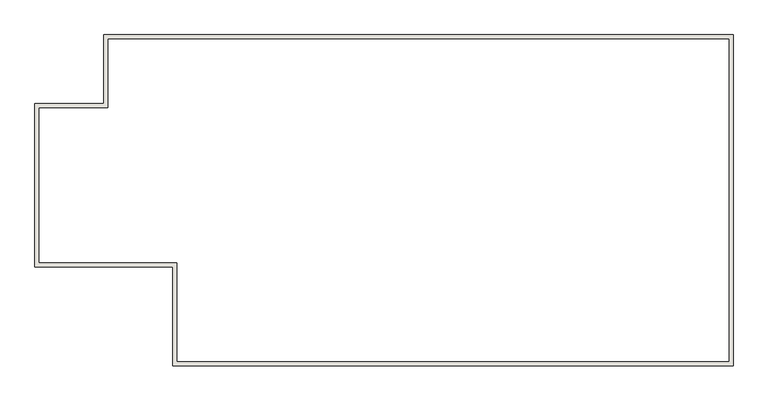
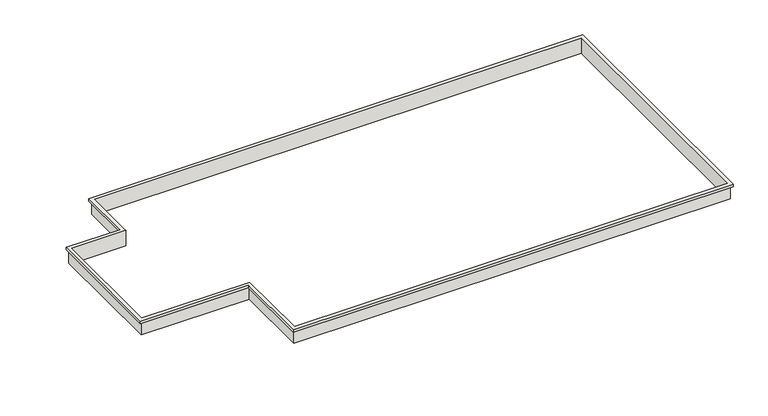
"""IFC4 building model written with IfcOpenShell, lengths in millimetres: wall geometry, 墙 4 : 墙 4."""

from ifc_helpers import new_model, si_unit, origin, place, context, project, spatial, faceted_brep, source, transform, mapped, element, save


def wall_ed209919(model_context):
    return source(origin(), model_context, "Body", "Brep", [
        faceted_brep([(26665.1052473, -8848.768361, 9200.0), (26665.1052473, -8848.768361, 9050.0), (26665.1052473, 5591.231639, 9050.0), (26665.1052473, 5591.231639, 9200.0), (26465.1052473, -8648.768361, 8300.0), (26465.1052473, -8648.768361, 9200.0), (26465.1052473, 5391.231639, 9200.0), (26465.1052473, 5391.231639, 8300.0), (26565.1052473, -8748.768361, 9050.0), (26565.1052473, -8748.768361, 8300.0), (26565.1052473, 5491.231639, 8300.0), (26565.1052473, 5491.231639, 9050.0), (-774.8947527, 5591.231639, 9050.0), (-774.8947527, 5591.231639, 9200.0), (-574.8947527, 5391.231639, 9200.0), (-574.8947527, 5391.231639, 8300.0), (-674.8947527, 5491.231639, 8300.0), (-674.8947527, 5491.231639, 9050.0), (-774.8947527, 2591.231639, 9050.0), (-774.8947527, 2591.231639, 9200.0), (-574.8947527, 2391.231639, 9200.0), (-574.8947527, 2391.231639, 8300.0), (-674.8947527, 2491.231639, 8300.0), (-674.8947527, 2491.231639, 9050.0), (-3774.8947527, 2591.231639, 9050.0), (-3774.8947527, 2591.231639, 9200.0), (-3574.8947527, 2391.231639, 9200.0), (-3574.8947527, 2391.231639, 8300.0), (-3674.8947527, 2491.231639, 8300.0), (-3674.8947527, 2491.231639, 9050.0), (-3774.8947527, -4548.768361, 9050.0), (-3774.8947527, -4548.768361, 9200.0), (-3574.8947527, -4348.768361, 9200.0), (-3574.8947527, -4348.768361, 8300.0), (-3674.8947527, -4448.768361, 8300.0), (-3674.8947527, -4448.768361, 9050.0), (2225.1052473, -4548.768361, 9050.0), (2225.1052473, -4548.768361, 9200.0), (2425.1052473, -4348.768361, 9200.0), (2425.1052473, -4348.768361, 8300.0), (2325.1052473, -4448.768361, 8300.0), (2325.1052473, -4448.768361, 9050.0), (2225.1052473, -8848.768361, 9050.0), (2225.1052473, -8848.768361, 9200.0), (2425.1052473, -8648.768361, 9200.0), (2425.1052473, -8648.768361, 8300.0), (2325.1052473, -8748.768361, 8300.0), (2325.1052473, -8748.768361, 9050.0)], [[[0, 1, 2, 3]], [[4, 5, 6, 7]], [[8, 9, 10, 11]], [[3, 2, 12, 13]], [[7, 6, 14, 15]], [[11, 10, 16, 17]], [[13, 12, 18, 19]], [[15, 14, 20, 21]], [[17, 16, 22, 23]], [[19, 18, 24, 25]], [[21, 20, 26, 27]], [[23, 22, 28, 29]], [[25, 24, 30, 31]], [[27, 26, 32, 33]], [[29, 28, 34, 35]], [[31, 30, 36, 37]], [[33, 32, 38, 39]], [[35, 34, 40, 41]], [[37, 36, 42, 43]], [[39, 38, 44, 45]], [[41, 40, 46, 47]], [[1, 42, 36, 30, 24, 18, 12, 2], [35, 41, 47, 8, 11, 17, 23, 29]], [[43, 42, 1, 0]], [[31, 37, 43, 0, 3, 13, 19, 25], [5, 44, 38, 32, 26, 20, 14, 6]], [[45, 44, 5, 4]], [[9, 46, 40, 34, 28, 22, 16, 10], [33, 39, 45, 4, 7, 15, 21, 27]], [[47, 46, 9, 8]]]),
    ])


if __name__ == "__main__":
    model = new_model("IFC4")
    model_context = context("Model", 3, world=origin())
    ifc_project = project(units=[si_unit("LENGTHUNIT", "METRE", prefix="MILLI")], contexts=[model_context])
    site = spatial("IfcSite", under=ifc_project)
    building = spatial("IfcBuilding", under=site)
    placement = place(None, origin())
    wall_shape = wall_ed209919(model_context)
    element("IfcWall", 1, ObjectType="墙 4 : 墙 4", at=placement, inside=building, context=model_context, shape_type="MappedRepresentation", body=[
        mapped(wall_shape, transform((0.0, 0.0, 0.0), x_axis=(1.0, 0.0, 0.0), y_axis=(0.0, 1.0, 0.0), z_axis=(0.0, 0.0, 1.0))),
    ])
    save(model, "model.ifc")
